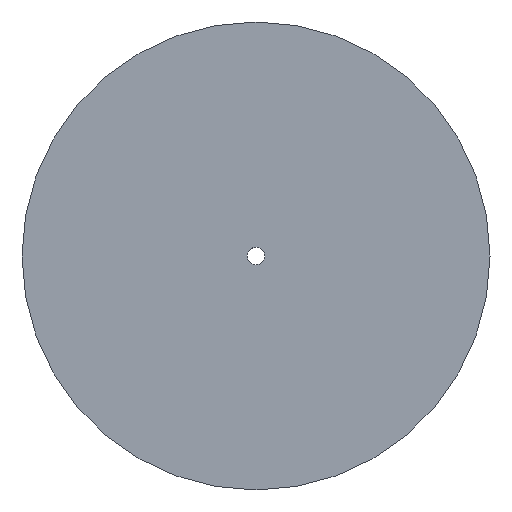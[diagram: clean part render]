
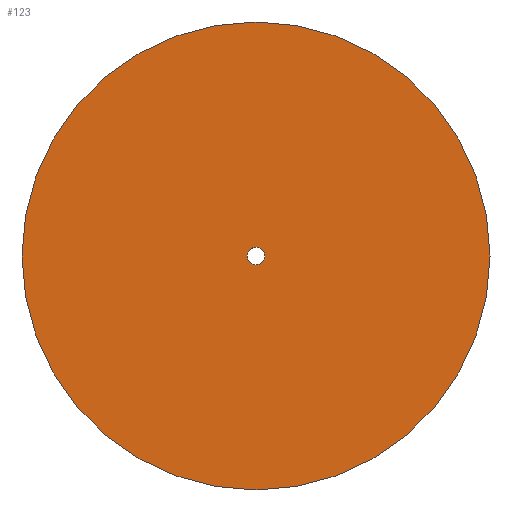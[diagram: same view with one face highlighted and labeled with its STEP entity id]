
A CAD part, top view. The second image highlights one B-rep face of the part: STEP entity #123.
In plain terms, the highlighted planar face has unit normal (0, 0, 1).
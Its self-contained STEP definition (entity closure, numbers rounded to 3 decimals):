
#62=CARTESIAN_POINT('Vertex',(-2.852,1.558,0.)) ;
#76=CARTESIAN_POINT('Vertex',(2.852,-1.558,0.)) ;
#79=CARTESIAN_POINT('Axis2P3D Location',(0.,0.,0.)) ;
#91=CARTESIAN_POINT('Axis2P3D Location',(0.,0.,0.)) ;
#96=CARTESIAN_POINT('Axis2P3D Location',(0.,0.,0.)) ;
#100=CARTESIAN_POINT('Vertex',(88.,0.,0.)) ;
#102=CARTESIAN_POINT('Vertex',(-88.,0.,0.)) ;
#105=CARTESIAN_POINT('Axis2P3D Location',(0.,0.,0.)) ;
#114=CARTESIAN_POINT('Axis2P3D Location',(0.,0.,0.)) ;
#80=DIRECTION('Axis2P3D Direction',(0.,-0.,-1.)) ;
#92=DIRECTION('Axis2P3D Direction',(0.,0.,1.)) ;
#93=DIRECTION('Axis2P3D XDirection',(1.,0.,0.)) ;
#97=DIRECTION('Axis2P3D Direction',(0.,0.,1.)) ;
#106=DIRECTION('Axis2P3D Direction',(0.,0.,1.)) ;
#115=DIRECTION('Axis2P3D Direction',(0.,0.,1.)) ;
#81=AXIS2_PLACEMENT_3D('Circle Axis2P3D',#79,#80,$) ;
#94=AXIS2_PLACEMENT_3D('Plane Axis2P3D',#91,#92,#93) ;
#98=AXIS2_PLACEMENT_3D('Circle Axis2P3D',#96,#97,$) ;
#107=AXIS2_PLACEMENT_3D('Circle Axis2P3D',#105,#106,$) ;
#116=AXIS2_PLACEMENT_3D('Circle Axis2P3D',#114,#115,$) ;
#111=ORIENTED_EDGE('',*,*,#104,.F.) ;
#112=ORIENTED_EDGE('',*,*,#109,.F.) ;
#120=ORIENTED_EDGE('',*,*,#118,.F.) ;
#121=ORIENTED_EDGE('',*,*,#83,.F.) ;
#122=FACE_BOUND('',#119,.T.) ;
#123=ADVANCED_FACE('PartBody',(#113,#122),#95,.T.) ;
#82=CIRCLE('generated circle',#81,3.25) ;
#99=CIRCLE('generated circle',#98,88.) ;
#108=CIRCLE('generated circle',#107,88.) ;
#117=CIRCLE('generated circle',#116,3.25) ;
#83=EDGE_CURVE('',#77,#63,#82,.F.) ;
#104=EDGE_CURVE('',#101,#103,#99,.F.) ;
#109=EDGE_CURVE('',#103,#101,#108,.F.) ;
#118=EDGE_CURVE('',#63,#77,#117,.T.) ;
#110=EDGE_LOOP('',(#111,#112)) ;
#119=EDGE_LOOP('',(#120,#121)) ;
#113=FACE_OUTER_BOUND('',#110,.T.) ;
#95=PLANE('',#94) ;
#63=VERTEX_POINT('',#62) ;
#77=VERTEX_POINT('',#76) ;
#101=VERTEX_POINT('',#100) ;
#103=VERTEX_POINT('',#102) ;
